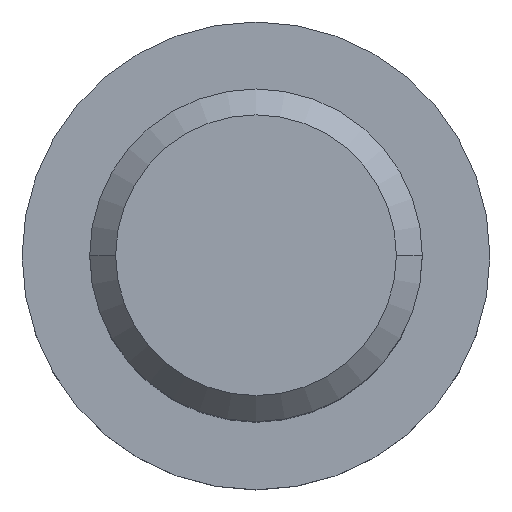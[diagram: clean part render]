
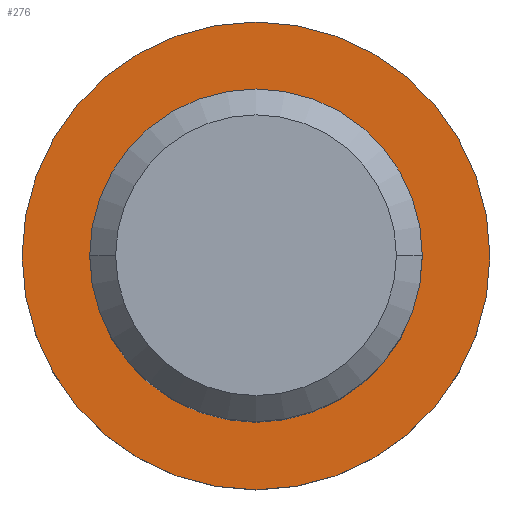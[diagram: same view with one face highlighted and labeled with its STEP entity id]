
A CAD part, top view. The second image highlights one B-rep face of the part: STEP entity #276.
In plain terms, the highlighted planar face has unit normal (0, 0, 1).
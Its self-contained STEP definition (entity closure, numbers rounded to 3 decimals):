
#2 = DIRECTION ( 'NONE',  ( 0., 0., 1. ) ) ;
#8 = AXIS2_PLACEMENT_3D ( 'NONE', #155, #152, #98 ) ;
#22 = CARTESIAN_POINT ( 'NONE',  ( 6.4, 0., 1. ) ) ;
#25 = CIRCLE ( 'NONE', #8, 6.4 ) ;
#26 = AXIS2_PLACEMENT_3D ( 'NONE', #120, #361, #212 ) ;
#38 = DIRECTION ( 'NONE',  ( -1., 0., 0. ) ) ;
#55 = CIRCLE ( 'NONE', #346, 9. ) ;
#64 = VERTEX_POINT ( 'NONE', #265 ) ;
#79 = VERTEX_POINT ( 'NONE', #22 ) ;
#95 = DIRECTION ( 'NONE',  ( 0., 0., 1. ) ) ;
#98 = DIRECTION ( 'NONE',  ( 1., 0., 0. ) ) ;
#106 = FACE_BOUND ( 'NONE', #274, .T. ) ;
#108 = AXIS2_PLACEMENT_3D ( 'NONE', #128, #373, #38 ) ;
#110 = EDGE_LOOP ( 'NONE', ( #250, #358 ) ) ;
#120 = CARTESIAN_POINT ( 'NONE',  ( 0., 0., 1. ) ) ;
#128 = CARTESIAN_POINT ( 'NONE',  ( 0., 6.4, 1. ) ) ;
#130 = PLANE ( 'NONE',  #108 ) ;
#141 = ORIENTED_EDGE ( 'NONE', *, *, #262, .F. ) ;
#145 = AXIS2_PLACEMENT_3D ( 'NONE', #376, #95, #343 ) ;
#152 = DIRECTION ( 'NONE',  ( 0., 0., 1. ) ) ;
#154 = EDGE_CURVE ( 'NONE', #79, #64, #332, .T. ) ;
#155 = CARTESIAN_POINT ( 'NONE',  ( 0., 0., 1. ) ) ;
#165 = ORIENTED_EDGE ( 'NONE', *, *, #154, .F. ) ;
#177 = EDGE_CURVE ( 'NONE', #329, #191, #55, .T. ) ;
#191 = VERTEX_POINT ( 'NONE', #214 ) ;
#212 = DIRECTION ( 'NONE',  ( 1., 0., 0. ) ) ;
#214 = CARTESIAN_POINT ( 'NONE',  ( -9., 0., 1. ) ) ;
#246 = CARTESIAN_POINT ( 'NONE',  ( 0., 0., 1. ) ) ;
#250 = ORIENTED_EDGE ( 'NONE', *, *, #177, .T. ) ;
#262 = EDGE_CURVE ( 'NONE', #64, #79, #25, .T. ) ;
#265 = CARTESIAN_POINT ( 'NONE',  ( -6.4, 0., 1. ) ) ;
#274 = EDGE_LOOP ( 'NONE', ( #165, #141 ) ) ;
#275 = DIRECTION ( 'NONE',  ( 1., 0., 0. ) ) ;
#276 = ADVANCED_FACE ( 'NONE', ( #106, #354 ), #130, .F. ) ;
#329 = VERTEX_POINT ( 'NONE', #368 ) ;
#331 = EDGE_CURVE ( 'NONE', #191, #329, #362, .T. ) ;
#332 = CIRCLE ( 'NONE', #26, 6.4 ) ;
#343 = DIRECTION ( 'NONE',  ( 1., 0., 0. ) ) ;
#346 = AXIS2_PLACEMENT_3D ( 'NONE', #246, #2, #275 ) ;
#354 = FACE_OUTER_BOUND ( 'NONE', #110, .T. ) ;
#358 = ORIENTED_EDGE ( 'NONE', *, *, #331, .T. ) ;
#361 = DIRECTION ( 'NONE',  ( 0., 0., 1. ) ) ;
#362 = CIRCLE ( 'NONE', #145, 9. ) ;
#368 = CARTESIAN_POINT ( 'NONE',  ( 9., 0., 1. ) ) ;
#373 = DIRECTION ( 'NONE',  ( 0., 0., -1. ) ) ;
#376 = CARTESIAN_POINT ( 'NONE',  ( 0., 0., 1. ) ) ;
